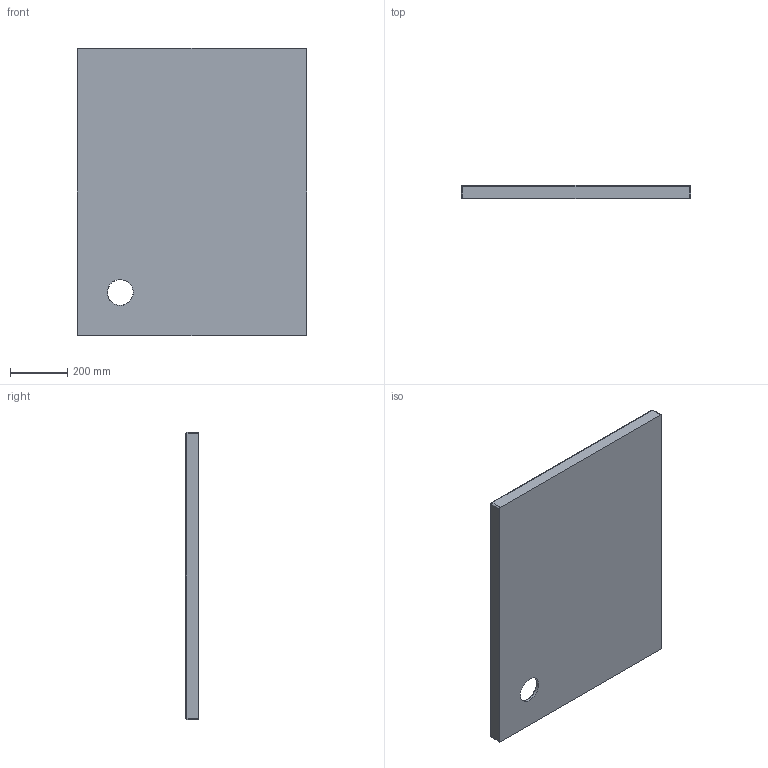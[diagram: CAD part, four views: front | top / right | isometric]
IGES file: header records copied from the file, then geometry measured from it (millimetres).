
Global section: file name: c5a8b57a-8f18-4ffa-81c0-c2fd4ed674ed; native system: unknown; preprocessor: unknown; author: unknown; organization: unknown; date: 20200103.082848; units: millimetre
Bounding box: 800 x 45 x 1000 mm (x, y, z)
Volume: 22805606.6 mm3; surface area: 1797362.2 mm2
Topology: 1 solids, 1 shells, 47 faces, 98 edges, 54 vertices
Faces by surface type: bspline 47
